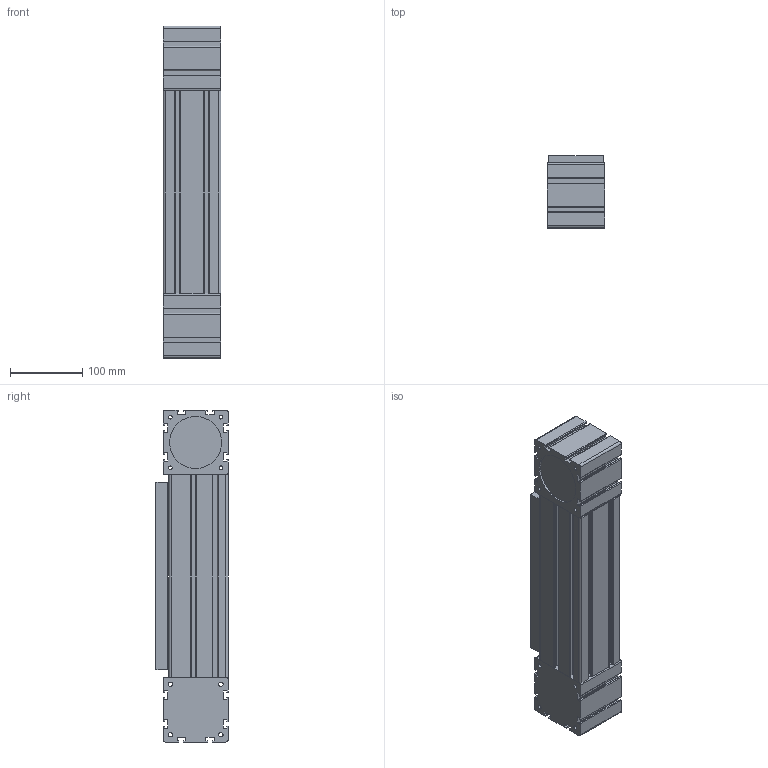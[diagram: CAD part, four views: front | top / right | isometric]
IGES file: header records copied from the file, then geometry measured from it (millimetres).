
Global section: file name: No Iges File Name specified; native system: Autodesk Inventor 2012; preprocessor: AutoDesk Inventor Iges Exporter R2012; author: disegnatore3; date: 20160907.121611; units: millimetre
Bounding box: 80 x 100 x 460 mm (x, y, z)
Volume: 3187626.3 mm3; surface area: 321593.2 mm2
Topology: 4 solids, 4 shells, 274 faces, 797 edges, 533 vertices
Faces by surface type: plane 178, revolution 50, cylinder 46
